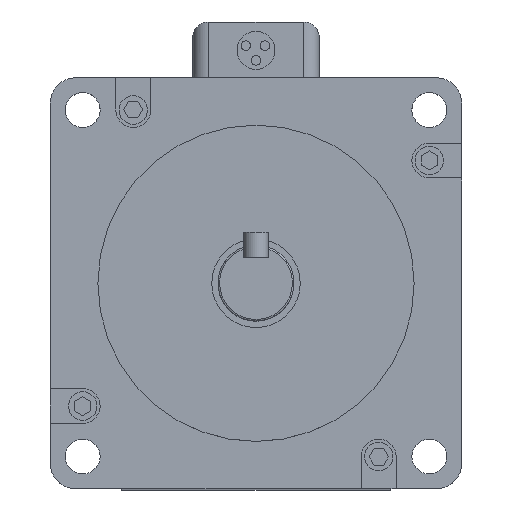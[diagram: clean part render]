
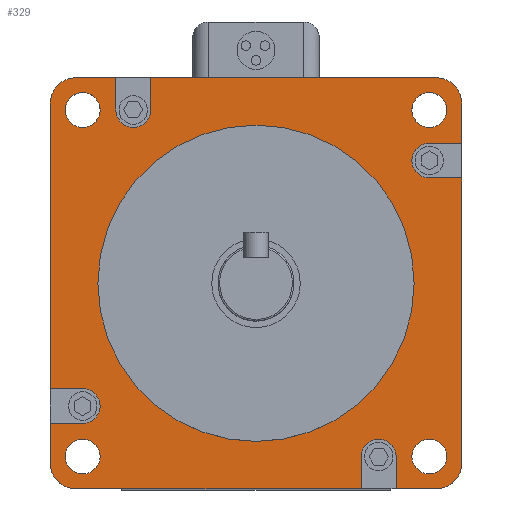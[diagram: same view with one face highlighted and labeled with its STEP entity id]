
A CAD part, top view. The second image highlights one B-rep face of the part: STEP entity #329.
In plain terms, the highlighted planar face has unit normal (0, 0, 1).
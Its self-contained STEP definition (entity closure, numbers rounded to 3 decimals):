
#175=FACE_BOUND('',#709,.T.);
#176=FACE_BOUND('',#710,.T.);
#177=FACE_BOUND('',#711,.T.);
#178=FACE_BOUND('',#712,.T.);
#179=FACE_BOUND('',#713,.T.);
#180=FACE_BOUND('',#714,.T.);
#254=CIRCLE('',#2713,5.5);
#255=CIRCLE('',#2714,5.5);
#256=CIRCLE('',#2715,50.);
#257=CIRCLE('',#2716,5.5);
#258=CIRCLE('',#2717,5.5);
#259=CIRCLE('',#2718,8.);
#260=CIRCLE('',#2719,5.5);
#261=CIRCLE('',#2720,8.);
#262=CIRCLE('',#2721,5.5);
#263=CIRCLE('',#2722,8.);
#264=CIRCLE('',#2723,5.5);
#265=CIRCLE('',#2724,8.);
#266=CIRCLE('',#2725,5.5);
#329=ADVANCED_FACE('',(#175,#176,#177,#178,#179,#180),#480,.T.);
#480=PLANE('',#2726);
#709=EDGE_LOOP('',(#941));
#710=EDGE_LOOP('',(#942));
#711=EDGE_LOOP('',(#943));
#712=EDGE_LOOP('',(#944));
#713=EDGE_LOOP('',(#945));
#714=EDGE_LOOP('',(#946,#947,#948,#949,#950,#951,#952,#953,#954,#955,#956,
#957,#958,#959,#960,#961,#962,#963,#964,#965,#966,#967,#968,#969));
#941=ORIENTED_EDGE('',*,*,#1880,.T.);
#942=ORIENTED_EDGE('',*,*,#1881,.F.);
#943=ORIENTED_EDGE('',*,*,#1882,.F.);
#944=ORIENTED_EDGE('',*,*,#1883,.F.);
#945=ORIENTED_EDGE('',*,*,#1884,.F.);
#946=ORIENTED_EDGE('',*,*,#1885,.T.);
#947=ORIENTED_EDGE('',*,*,#1886,.T.);
#948=ORIENTED_EDGE('',*,*,#1887,.T.);
#949=ORIENTED_EDGE('',*,*,#1888,.F.);
#950=ORIENTED_EDGE('',*,*,#1889,.F.);
#951=ORIENTED_EDGE('',*,*,#1890,.F.);
#952=ORIENTED_EDGE('',*,*,#1891,.T.);
#953=ORIENTED_EDGE('',*,*,#1892,.T.);
#954=ORIENTED_EDGE('',*,*,#1893,.T.);
#955=ORIENTED_EDGE('',*,*,#1894,.F.);
#956=ORIENTED_EDGE('',*,*,#1895,.F.);
#957=ORIENTED_EDGE('',*,*,#1896,.F.);
#958=ORIENTED_EDGE('',*,*,#1897,.T.);
#959=ORIENTED_EDGE('',*,*,#1898,.T.);
#960=ORIENTED_EDGE('',*,*,#1899,.T.);
#961=ORIENTED_EDGE('',*,*,#1900,.T.);
#962=ORIENTED_EDGE('',*,*,#1901,.T.);
#963=ORIENTED_EDGE('',*,*,#1902,.T.);
#964=ORIENTED_EDGE('',*,*,#1903,.T.);
#965=ORIENTED_EDGE('',*,*,#1904,.T.);
#966=ORIENTED_EDGE('',*,*,#1905,.T.);
#967=ORIENTED_EDGE('',*,*,#1906,.F.);
#968=ORIENTED_EDGE('',*,*,#1907,.F.);
#969=ORIENTED_EDGE('',*,*,#1908,.F.);
#1639=VERTEX_POINT('',#3771);
#1640=VERTEX_POINT('',#3773);
#1641=VERTEX_POINT('',#3775);
#1642=VERTEX_POINT('',#3777);
#1643=VERTEX_POINT('',#3779);
#1644=VERTEX_POINT('',#3781);
#1645=VERTEX_POINT('',#3782);
#1646=VERTEX_POINT('',#3784);
#1647=VERTEX_POINT('',#3786);
#1648=VERTEX_POINT('',#3788);
#1649=VERTEX_POINT('',#3790);
#1650=VERTEX_POINT('',#3792);
#1651=VERTEX_POINT('',#3794);
#1652=VERTEX_POINT('',#3796);
#1653=VERTEX_POINT('',#3798);
#1654=VERTEX_POINT('',#3800);
#1655=VERTEX_POINT('',#3802);
#1656=VERTEX_POINT('',#3804);
#1657=VERTEX_POINT('',#3806);
#1658=VERTEX_POINT('',#3808);
#1659=VERTEX_POINT('',#3810);
#1660=VERTEX_POINT('',#3812);
#1661=VERTEX_POINT('',#3814);
#1662=VERTEX_POINT('',#3816);
#1663=VERTEX_POINT('',#3818);
#1664=VERTEX_POINT('',#3820);
#1665=VERTEX_POINT('',#3822);
#1666=VERTEX_POINT('',#3824);
#1667=VERTEX_POINT('',#3826);
#1880=EDGE_CURVE('',#1639,#1639,#254,.T.);
#1881=EDGE_CURVE('',#1640,#1640,#255,.T.);
#1882=EDGE_CURVE('',#1641,#1641,#256,.T.);
#1883=EDGE_CURVE('',#1642,#1642,#257,.T.);
#1884=EDGE_CURVE('',#1643,#1643,#258,.T.);
#1885=EDGE_CURVE('',#1644,#1645,#2213,.T.);
#1886=EDGE_CURVE('',#1645,#1646,#259,.T.);
#1887=EDGE_CURVE('',#1646,#1647,#2214,.T.);
#1888=EDGE_CURVE('',#1648,#1647,#2215,.T.);
#1889=EDGE_CURVE('',#1649,#1648,#260,.T.);
#1890=EDGE_CURVE('',#1650,#1649,#2216,.T.);
#1891=EDGE_CURVE('',#1650,#1651,#2217,.T.);
#1892=EDGE_CURVE('',#1651,#1652,#261,.T.);
#1893=EDGE_CURVE('',#1652,#1653,#2218,.T.);
#1894=EDGE_CURVE('',#1654,#1653,#2219,.T.);
#1895=EDGE_CURVE('',#1655,#1654,#262,.T.);
#1896=EDGE_CURVE('',#1656,#1655,#2220,.T.);
#1897=EDGE_CURVE('',#1656,#1657,#2221,.T.);
#1898=EDGE_CURVE('',#1657,#1658,#263,.T.);
#1899=EDGE_CURVE('',#1658,#1659,#2222,.T.);
#1900=EDGE_CURVE('',#1659,#1660,#2223,.T.);
#1901=EDGE_CURVE('',#1660,#1661,#264,.T.);
#1902=EDGE_CURVE('',#1661,#1662,#2224,.T.);
#1903=EDGE_CURVE('',#1662,#1663,#2225,.T.);
#1904=EDGE_CURVE('',#1663,#1664,#265,.T.);
#1905=EDGE_CURVE('',#1664,#1665,#2226,.T.);
#1906=EDGE_CURVE('',#1666,#1665,#2227,.T.);
#1907=EDGE_CURVE('',#1667,#1666,#266,.T.);
#1908=EDGE_CURVE('',#1644,#1667,#2228,.T.);
#2213=LINE('',#3780,#2469);
#2214=LINE('',#3785,#2470);
#2215=LINE('',#3787,#2471);
#2216=LINE('',#3791,#2472);
#2217=LINE('',#3793,#2473);
#2218=LINE('',#3797,#2474);
#2219=LINE('',#3799,#2475);
#2220=LINE('',#3803,#2476);
#2221=LINE('',#3805,#2477);
#2222=LINE('',#3809,#2478);
#2223=LINE('',#3811,#2479);
#2224=LINE('',#3815,#2480);
#2225=LINE('',#3817,#2481);
#2226=LINE('',#3821,#2482);
#2227=LINE('',#3823,#2483);
#2228=LINE('',#3827,#2484);
#2469=VECTOR('',#3022,1.);
#2470=VECTOR('',#3025,1.);
#2471=VECTOR('',#3026,1.);
#2472=VECTOR('',#3029,1.);
#2473=VECTOR('',#3030,1.);
#2474=VECTOR('',#3033,1.);
#2475=VECTOR('',#3034,1.);
#2476=VECTOR('',#3037,1.);
#2477=VECTOR('',#3038,1.);
#2478=VECTOR('',#3041,1.);
#2479=VECTOR('',#3042,1.);
#2480=VECTOR('',#3045,1.);
#2481=VECTOR('',#3046,1.);
#2482=VECTOR('',#3049,1.);
#2483=VECTOR('',#3050,1.);
#2484=VECTOR('',#3053,1.);
#2713=AXIS2_PLACEMENT_3D('',#3770,#3012,#3013);
#2714=AXIS2_PLACEMENT_3D('',#3772,#3014,#3015);
#2715=AXIS2_PLACEMENT_3D('',#3774,#3016,#3017);
#2716=AXIS2_PLACEMENT_3D('',#3776,#3018,#3019);
#2717=AXIS2_PLACEMENT_3D('',#3778,#3020,#3021);
#2718=AXIS2_PLACEMENT_3D('',#3783,#3023,#3024);
#2719=AXIS2_PLACEMENT_3D('',#3789,#3027,#3028);
#2720=AXIS2_PLACEMENT_3D('',#3795,#3031,#3032);
#2721=AXIS2_PLACEMENT_3D('',#3801,#3035,#3036);
#2722=AXIS2_PLACEMENT_3D('',#3807,#3039,#3040);
#2723=AXIS2_PLACEMENT_3D('',#3813,#3043,#3044);
#2724=AXIS2_PLACEMENT_3D('',#3819,#3047,#3048);
#2725=AXIS2_PLACEMENT_3D('',#3825,#3051,#3052);
#2726=AXIS2_PLACEMENT_3D('',#3828,#3054,#3055);
#3012=DIRECTION('',(0.,0.,-1.));
#3013=DIRECTION('',(1.,0.,0.));
#3014=DIRECTION('',(0.,0.,1.));
#3015=DIRECTION('',(1.,0.,0.));
#3016=DIRECTION('',(0.,0.,1.));
#3017=DIRECTION('',(1.,0.,0.));
#3018=DIRECTION('',(0.,0.,1.));
#3019=DIRECTION('',(1.,0.,0.));
#3020=DIRECTION('',(0.,0.,1.));
#3021=DIRECTION('',(1.,0.,0.));
#3022=DIRECTION('',(-1.,0.,0.));
#3023=DIRECTION('',(0.,0.,1.));
#3024=DIRECTION('',(1.,0.,0.));
#3025=DIRECTION('',(0.,-1.,0.));
#3026=DIRECTION('',(-1.,0.,0.));
#3027=DIRECTION('',(0.,0.,1.));
#3028=DIRECTION('',(0.,1.,0.));
#3029=DIRECTION('',(1.,0.,0.));
#3030=DIRECTION('',(0.,-1.,0.));
#3031=DIRECTION('',(0.,0.,1.));
#3032=DIRECTION('',(1.,0.,0.));
#3033=DIRECTION('',(1.,0.,0.));
#3034=DIRECTION('',(0.,-1.,0.));
#3035=DIRECTION('',(0.,0.,1.));
#3036=DIRECTION('',(-1.,0.,0.));
#3037=DIRECTION('',(0.,1.,0.));
#3038=DIRECTION('',(1.,0.,0.));
#3039=DIRECTION('',(0.,0.,1.));
#3040=DIRECTION('',(1.,0.,0.));
#3041=DIRECTION('',(0.,1.,0.));
#3042=DIRECTION('',(-1.,0.,0.));
#3043=DIRECTION('',(0.,0.,-1.));
#3044=DIRECTION('',(0.,-1.,0.));
#3045=DIRECTION('',(1.,0.,0.));
#3046=DIRECTION('',(0.,1.,0.));
#3047=DIRECTION('',(0.,0.,1.));
#3048=DIRECTION('',(1.,0.,0.));
#3049=DIRECTION('',(-1.,0.,0.));
#3050=DIRECTION('',(0.,1.,0.));
#3051=DIRECTION('',(0.,0.,1.));
#3052=DIRECTION('',(1.,0.,0.));
#3053=DIRECTION('',(0.,-1.,0.));
#3054=DIRECTION('',(0.,0.,1.));
#3055=DIRECTION('',(1.,0.,0.));
#3770=CARTESIAN_POINT('',(-54.8,-54.8,0.));
#3771=CARTESIAN_POINT('',(-49.3,-54.8,0.));
#3772=CARTESIAN_POINT('',(54.8,54.8,0.));
#3773=CARTESIAN_POINT('',(60.3,54.8,0.));
#3774=CARTESIAN_POINT('',(0.,0.,0.));
#3775=CARTESIAN_POINT('',(50.,0.,0.));
#3776=CARTESIAN_POINT('',(54.8,-54.8,0.));
#3777=CARTESIAN_POINT('',(60.3,-54.8,0.));
#3778=CARTESIAN_POINT('',(-54.8,54.8,0.));
#3779=CARTESIAN_POINT('',(-49.3,54.8,0.));
#3780=CARTESIAN_POINT('',(65.,65.,0.));
#3781=CARTESIAN_POINT('',(-44.3,65.,0.));
#3782=CARTESIAN_POINT('',(-57.,65.,0.));
#3783=CARTESIAN_POINT('',(-57.,57.,0.));
#3784=CARTESIAN_POINT('',(-65.,57.,0.));
#3785=CARTESIAN_POINT('',(-65.,65.,0.));
#3786=CARTESIAN_POINT('',(-65.,-33.3,0.));
#3787=CARTESIAN_POINT('',(-54.8,-33.3,0.));
#3788=CARTESIAN_POINT('',(-54.8,-33.3,0.));
#3789=CARTESIAN_POINT('',(-54.8,-38.8,0.));
#3790=CARTESIAN_POINT('',(-54.8,-44.3,0.));
#3791=CARTESIAN_POINT('',(-65.,-44.3,0.));
#3792=CARTESIAN_POINT('',(-65.,-44.3,0.));
#3793=CARTESIAN_POINT('',(-65.,65.,0.));
#3794=CARTESIAN_POINT('',(-65.,-57.,0.));
#3795=CARTESIAN_POINT('',(-57.,-57.,0.));
#3796=CARTESIAN_POINT('',(-57.,-65.,0.));
#3797=CARTESIAN_POINT('',(-65.,-65.,0.));
#3798=CARTESIAN_POINT('',(33.3,-65.,0.));
#3799=CARTESIAN_POINT('',(33.3,-54.8,0.));
#3800=CARTESIAN_POINT('',(33.3,-54.8,0.));
#3801=CARTESIAN_POINT('',(38.8,-54.8,0.));
#3802=CARTESIAN_POINT('',(44.3,-54.8,0.));
#3803=CARTESIAN_POINT('',(44.3,-65.,0.));
#3804=CARTESIAN_POINT('',(44.3,-65.,0.));
#3805=CARTESIAN_POINT('',(-65.,-65.,0.));
#3806=CARTESIAN_POINT('',(57.,-65.,0.));
#3807=CARTESIAN_POINT('',(57.,-57.,0.));
#3808=CARTESIAN_POINT('',(65.,-57.,0.));
#3809=CARTESIAN_POINT('',(65.,-65.,0.));
#3810=CARTESIAN_POINT('',(65.,33.3,0.));
#3811=CARTESIAN_POINT('',(65.,33.3,0.));
#3812=CARTESIAN_POINT('',(54.8,33.3,0.));
#3813=CARTESIAN_POINT('',(54.8,38.8,0.));
#3814=CARTESIAN_POINT('',(54.8,44.3,0.));
#3815=CARTESIAN_POINT('',(54.8,44.3,0.));
#3816=CARTESIAN_POINT('',(65.,44.3,0.));
#3817=CARTESIAN_POINT('',(65.,-65.,0.));
#3818=CARTESIAN_POINT('',(65.,57.,0.));
#3819=CARTESIAN_POINT('',(57.,57.,0.));
#3820=CARTESIAN_POINT('',(57.,65.,0.));
#3821=CARTESIAN_POINT('',(65.,65.,0.));
#3822=CARTESIAN_POINT('',(-33.3,65.,0.));
#3823=CARTESIAN_POINT('',(-33.3,54.8,0.));
#3824=CARTESIAN_POINT('',(-33.3,54.8,0.));
#3825=CARTESIAN_POINT('',(-38.8,54.8,0.));
#3826=CARTESIAN_POINT('',(-44.3,54.8,0.));
#3827=CARTESIAN_POINT('',(-44.3,65.,0.));
#3828=CARTESIAN_POINT('',(65.,-65.,0.));
